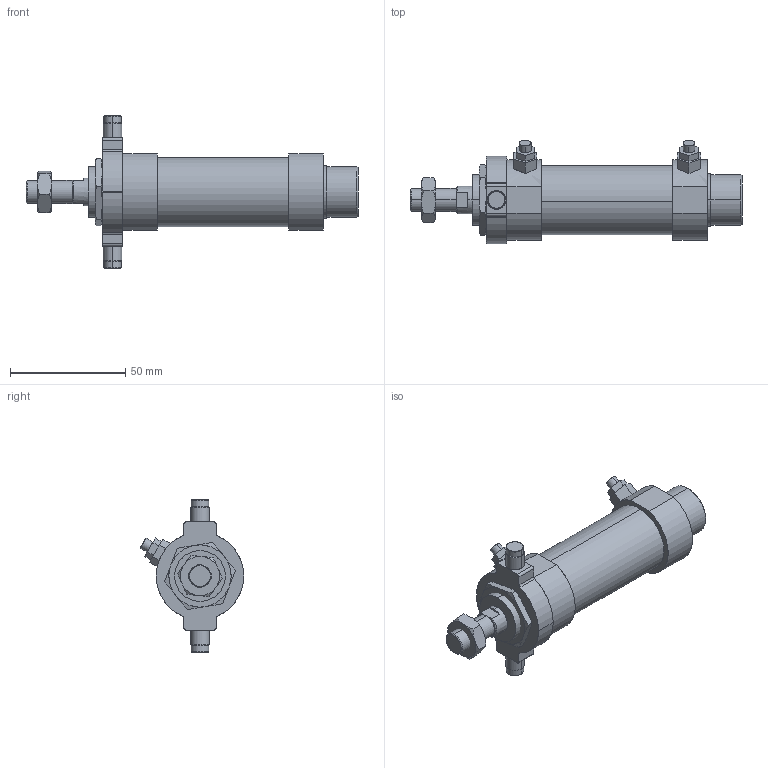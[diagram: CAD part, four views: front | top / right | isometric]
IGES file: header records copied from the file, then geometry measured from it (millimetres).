
Start section: SolidWorks IGES file using analytic representation for surfaces
Global section: file name: C:\Users\Toshiba\Desktop\JG2-25-25-T.IGS; native system: SolidWorks 2014; preprocessor: SolidWorks 2014; author: Toshiba; date: 160419.084900; units: millimetre
Bounding box: 144 x 44.93 x 66 mm (x, y, z)
Surface area: 24076.3 mm2 (no closed solid volume)
Topology: 0 solids, 0 shells, 176 faces, 2692 edges, 2688 vertices
Faces by surface type: bspline 103, revolution 73
